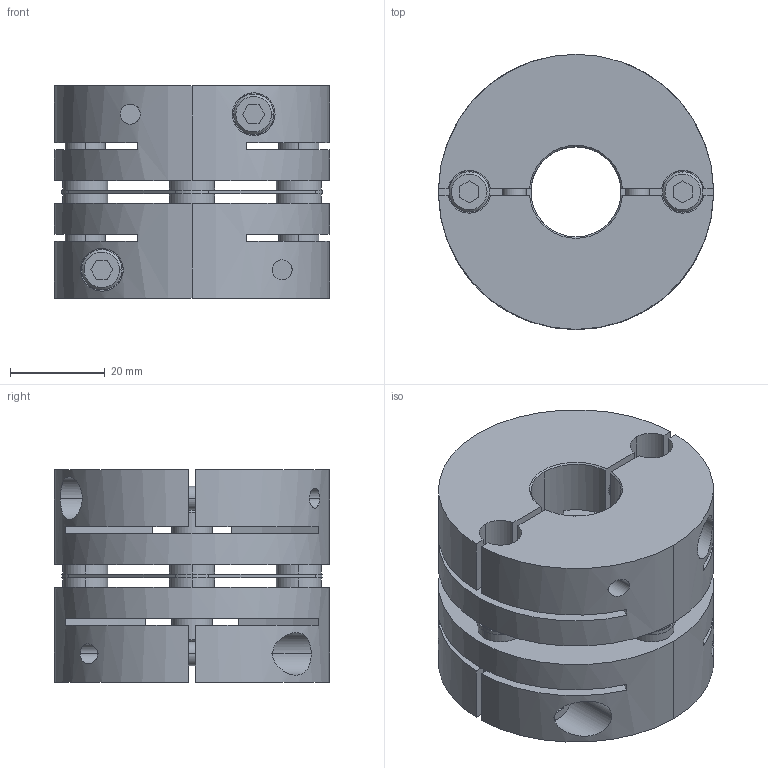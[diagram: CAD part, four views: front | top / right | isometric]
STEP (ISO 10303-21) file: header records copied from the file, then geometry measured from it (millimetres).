
FILE_DESCRIPTION((''),'2;1');
FILE_NAME('LAS-58C-19×22.stp','2015-10-15T14:55:11',(''),(''),'AutoCAD STEP 2000i','AutoCAD 2000i',', , ');
FILE_SCHEMA(('CONFIG_CONTROL_DESIGN'));
Length unit declared in the file: millimetre
Products named in the file (6): LAS-58C-12×19; 忣兜1; LA-5802-D19; LA-5802-D12-1; LA-5802-D12; LAS58-ITA
Assembly tree (5 placements, depth 2):
  LAS-58C-12×19
    忣兜1
    LA-5802-D19
    LA-5802-D12-1
    LA-5802-D12
    LAS58-ITA
Bounding box: 58 x 58 x 44.8 mm (x, y, z)
Volume: 83465.6 mm3; surface area: 32867.6 mm2
Topology: 1 solids, 1 shells, 238 faces, 618 edges, 404 vertices
Faces by surface type: plane 114, cylinder 96, cone 28
Entity records: 8213 total; most frequent: CARTESIAN_POINT 1988, DIRECTION 1316, ORIENTED_EDGE 1240, EDGE_CURVE 620, AXIS2_PLACEMENT_3D 484, VERTEX_POINT 404, VECTOR 348, LINE 348
